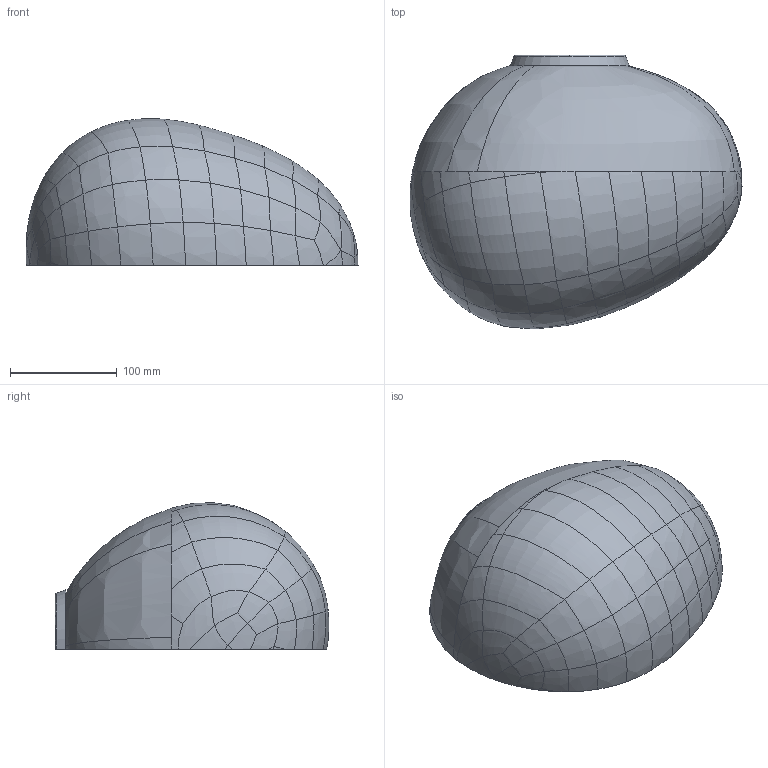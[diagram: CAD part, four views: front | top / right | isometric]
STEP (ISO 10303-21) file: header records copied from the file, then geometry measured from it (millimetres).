
FILE_DESCRIPTION (( 'STEP AP203' ), '1' );
FILE_NAME ('168_MEDIA-SEMI-2_W_ME_3D.STEP', '2021-04-07T12:30:08', ( '' ), ( '' ), 'SwSTEP 2.0', 'SolidWorks 2021', '' );
FILE_SCHEMA (( 'CONFIG_CONTROL_DESIGN' ));
Products named in the file (1): 168_MEDIA-SEMI-2_W_ME_3D
Bounding box: 311.13 x 256.46 x 137.39 mm (x, y, z)
Volume: 333107.6 mm3; surface area: 255972.7 mm2
Topology: 2 solids, 2 shells, 428 faces, 1047 edges, 610 vertices
Faces by surface type: bspline 178, cylinder 89, plane 61, torus 55, cone 25, sphere 20
Entity records: 169576 total; most frequent: CARTESIAN_POINT 161090, ORIENTED_EDGE 2062, DIRECTION 1290, EDGE_CURVE 1031, VERTEX_POINT 610, AXIS2_PLACEMENT_3D 533, B_SPLINE_CURVE_WITH_KNOTS 455, EDGE_LOOP 431
